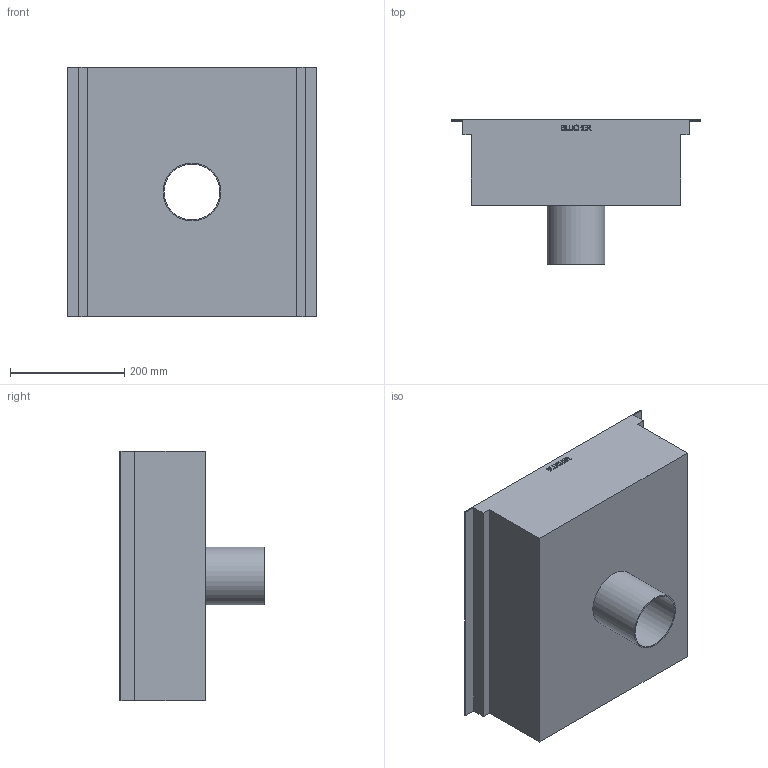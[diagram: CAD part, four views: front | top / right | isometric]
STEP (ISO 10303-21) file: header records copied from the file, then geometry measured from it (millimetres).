
FILE_DESCRIPTION((''),'2;1');
FILE_NAME('I:\WATTS\3D_CAD\3D_CAD_Models\Blucher_Drains\BKC_KitchenChannels\BKC-100\WebsiteFiles\3D\STEP\BKC-104-6.stp','2009-11-23T15:47:23',('menesek'),(''),'Autodesk Inventor 2010','Autodesk Inventor 2010','');
FILE_SCHEMA(('AUTOMOTIVE_DESIGN { 1 0 10303 214 1 1 1 1 }'));
Length unit declared in the file: inch
Products named in the file (1): BKC-104-6
Bounding box: 437 x 253 x 437 mm (x, y, z)
Volume: 907864.9 mm3; surface area: 912100.6 mm2
Topology: 1 solids, 1 shells, 142 faces, 384 edges, 256 vertices
Faces by surface type: plane 95, bspline 45, cylinder 2
Full cylindrical faces by diameter (mm): 97.6 x1, 101.6 x1
Entity records: 4799 total; most frequent: CARTESIAN_POINT 1501, ORIENTED_EDGE 764, DIRECTION 492, EDGE_CURVE 382, VECTOR 288, LINE 288, VERTEX_POINT 256, EDGE_LOOP 158
